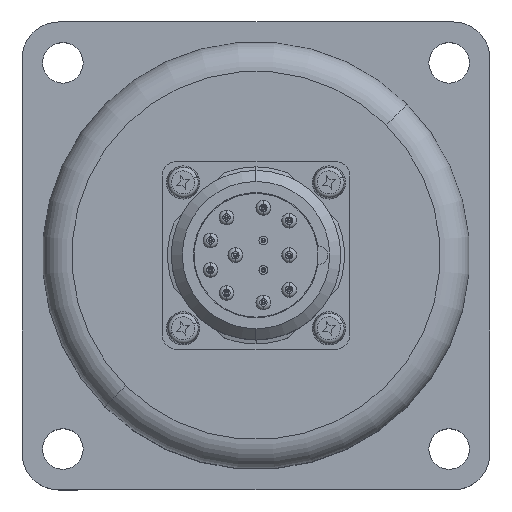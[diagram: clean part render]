
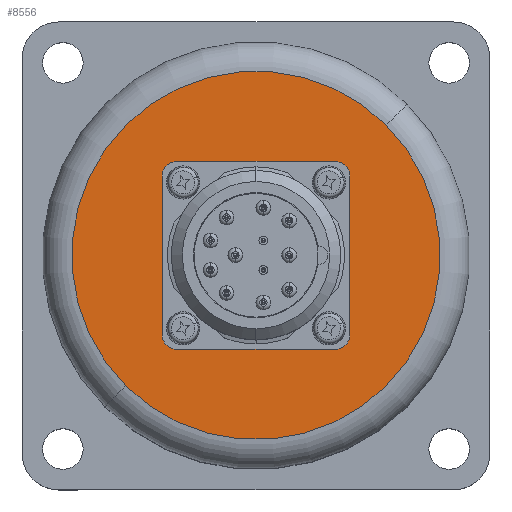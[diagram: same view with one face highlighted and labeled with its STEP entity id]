
A CAD part, top view. The second image highlights one B-rep face of the part: STEP entity #8556.
In plain terms, the highlighted planar face has unit normal (0, 0, 1).
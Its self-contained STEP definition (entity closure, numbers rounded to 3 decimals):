
#8553 = EDGE_CURVE ( 'NONE', #8667, #8666, #11340, .T. ) ;
#8556 = ADVANCED_FACE ( 'NONE', ( #11322, #11317, #11316, #11315, #11314, #11313 ), #11377, .F. ) ;
#8557 = EDGE_LOOP ( 'NONE', ( #8629, #8633 ) ) ;
#8559 = VERTEX_POINT ( 'NONE', #11405 ) ;
#8560 = VERTEX_POINT ( 'NONE', #11389 ) ;
#8561 = ORIENTED_EDGE ( 'NONE', *, *, #8562, .F. ) ;
#8562 = EDGE_CURVE ( 'NONE', #8560, #8559, #11402, .T. ) ;
#8563 = EDGE_LOOP ( 'NONE', ( #8564, #8565 ) ) ;
#8564 = ORIENTED_EDGE ( 'NONE', *, *, #8553, .T. ) ;
#8565 = ORIENTED_EDGE ( 'NONE', *, *, #8665, .T. ) ;
#8626 = EDGE_LOOP ( 'NONE', ( #8627, #8561 ) ) ;
#8627 = ORIENTED_EDGE ( 'NONE', *, *, #8628, .F. ) ;
#8628 = EDGE_CURVE ( 'NONE', #8559, #8560, #11465, .T. ) ;
#8629 = ORIENTED_EDGE ( 'NONE', *, *, #8630, .F. ) ;
#8630 = EDGE_CURVE ( 'NONE', #8631, #8632, #11440, .T. ) ;
#8631 = VERTEX_POINT ( 'NONE', #11436 ) ;
#8632 = VERTEX_POINT ( 'NONE', #11435 ) ;
#8633 = ORIENTED_EDGE ( 'NONE', *, *, #8634, .F. ) ;
#8634 = EDGE_CURVE ( 'NONE', #8632, #8631, #11433, .T. ) ;
#8635 = EDGE_LOOP ( 'NONE', ( #8636, #8640 ) ) ;
#8636 = ORIENTED_EDGE ( 'NONE', *, *, #8637, .F. ) ;
#8637 = EDGE_CURVE ( 'NONE', #8638, #8639, #11526, .T. ) ;
#8638 = VERTEX_POINT ( 'NONE', #11539 ) ;
#8639 = VERTEX_POINT ( 'NONE', #11538 ) ;
#8640 = ORIENTED_EDGE ( 'NONE', *, *, #8641, .F. ) ;
#8641 = EDGE_CURVE ( 'NONE', #8639, #8638, #11542, .T. ) ;
#8642 = EDGE_LOOP ( 'NONE', ( #8643, #8656 ) ) ;
#8643 = ORIENTED_EDGE ( 'NONE', *, *, #8653, .F. ) ;
#8653 = EDGE_CURVE ( 'NONE', #8654, #8655, #11530, .T. ) ;
#8654 = VERTEX_POINT ( 'NONE', #11532 ) ;
#8655 = VERTEX_POINT ( 'NONE', #11531 ) ;
#8656 = ORIENTED_EDGE ( 'NONE', *, *, #8657, .F. ) ;
#8657 = EDGE_CURVE ( 'NONE', #8655, #8654, #11525, .T. ) ;
#8658 = EDGE_LOOP ( 'NONE', ( #8659, #8663 ) ) ;
#8659 = ORIENTED_EDGE ( 'NONE', *, *, #8660, .F. ) ;
#8660 = EDGE_CURVE ( 'NONE', #8661, #8662, #11523, .T. ) ;
#8661 = VERTEX_POINT ( 'NONE', #11609 ) ;
#8662 = VERTEX_POINT ( 'NONE', #11581 ) ;
#8663 = ORIENTED_EDGE ( 'NONE', *, *, #8664, .F. ) ;
#8664 = EDGE_CURVE ( 'NONE', #8662, #8661, #11597, .T. ) ;
#8665 = EDGE_CURVE ( 'NONE', #8666, #8667, #11616, .T. ) ;
#8666 = VERTEX_POINT ( 'NONE', #11608 ) ;
#8667 = VERTEX_POINT ( 'NONE', #11582 ) ;
#11313 = FACE_OUTER_BOUND ( 'NONE', #8563, .T. ) ;
#11314 = FACE_BOUND ( 'NONE', #8626, .T. ) ;
#11315 = FACE_BOUND ( 'NONE', #8658, .T. ) ;
#11316 = FACE_BOUND ( 'NONE', #8642, .T. ) ;
#11317 = FACE_BOUND ( 'NONE', #8635, .T. ) ;
#11318 = DIRECTION ( 'NONE',  ( -0.707, -0.707, 0. ) ) ;
#11319 = DIRECTION ( 'NONE',  ( 0., 0., 1. ) ) ;
#11320 = CARTESIAN_POINT ( 'NONE',  ( 0., 0., 74.55 ) ) ;
#11321 = AXIS2_PLACEMENT_3D ( 'NONE', #11320, #11319, #11318 ) ;
#11322 = FACE_BOUND ( 'NONE', #8557, .T. ) ;
#11340 = CIRCLE ( 'NONE', #11321, 25. ) ;
#11377 = PLANE ( 'NONE',  #11381 ) ;
#11378 = DIRECTION ( 'NONE',  ( -0.707, -0.707, 0. ) ) ;
#11379 = DIRECTION ( 'NONE',  ( 0., 0., -1. ) ) ;
#11380 = CARTESIAN_POINT ( 'NONE',  ( -20.506, 20.506, 74.55 ) ) ;
#11381 = AXIS2_PLACEMENT_3D ( 'NONE', #11380, #11379, #11378 ) ;
#11382 = CARTESIAN_POINT ( 'NONE',  ( 0., 0., 74.55 ) ) ;
#11389 = CARTESIAN_POINT ( 'NONE',  ( -7.071, -7.071, 74.55 ) ) ;
#11391 = DIRECTION ( 'NONE',  ( 0.707, 0.707, 0. ) ) ;
#11392 = DIRECTION ( 'NONE',  ( 0., 0., 1. ) ) ;
#11402 = CIRCLE ( 'NONE', #11403, 10. ) ;
#11403 = AXIS2_PLACEMENT_3D ( 'NONE', #11382, #11392, #11391 ) ;
#11405 = CARTESIAN_POINT ( 'NONE',  ( 7.071, 7.071, 74.55 ) ) ;
#11428 = DIRECTION ( 'NONE',  ( 0.707, 0.707, 0. ) ) ;
#11429 = DIRECTION ( 'NONE',  ( 0.707, 0.707, 0. ) ) ;
#11430 = DIRECTION ( 'NONE',  ( 0., 0., 1. ) ) ;
#11431 = CARTESIAN_POINT ( 'NONE',  ( -9.9, -9.9, 74.55 ) ) ;
#11432 = AXIS2_PLACEMENT_3D ( 'NONE', #11431, #11430, #11429 ) ;
#11433 = CIRCLE ( 'NONE', #11432, 1.35 ) ;
#11434 = DIRECTION ( 'NONE',  ( 0., 0., 1. ) ) ;
#11435 = CARTESIAN_POINT ( 'NONE',  ( -10.855, -10.855, 74.55 ) ) ;
#11436 = CARTESIAN_POINT ( 'NONE',  ( -8.945, -8.945, 74.55 ) ) ;
#11437 = DIRECTION ( 'NONE',  ( 0.707, 0.707, 0. ) ) ;
#11438 = DIRECTION ( 'NONE',  ( 0., 0., 1. ) ) ;
#11439 = AXIS2_PLACEMENT_3D ( 'NONE', #11466, #11438, #11437 ) ;
#11440 = CIRCLE ( 'NONE', #11439, 1.35 ) ;
#11441 = DIRECTION ( 'NONE',  ( 0.707, 0.707, 0. ) ) ;
#11462 = DIRECTION ( 'NONE',  ( 0., 0., 1. ) ) ;
#11463 = CARTESIAN_POINT ( 'NONE',  ( 0., 0., 74.55 ) ) ;
#11464 = AXIS2_PLACEMENT_3D ( 'NONE', #11463, #11462, #11441 ) ;
#11465 = CIRCLE ( 'NONE', #11464, 10. ) ;
#11466 = CARTESIAN_POINT ( 'NONE',  ( -9.9, -9.9, 74.55 ) ) ;
#11508 = DIRECTION ( 'NONE',  ( 0.707, 0.707, 0. ) ) ;
#11509 = AXIS2_PLACEMENT_3D ( 'NONE', #11533, #11515, #11508 ) ;
#11515 = DIRECTION ( 'NONE',  ( 0., 0., 1. ) ) ;
#11521 = CARTESIAN_POINT ( 'NONE',  ( -9.9, 9.9, 74.55 ) ) ;
#11522 = AXIS2_PLACEMENT_3D ( 'NONE', #11521, #11434, #11428 ) ;
#11523 = CIRCLE ( 'NONE', #11522, 1.35 ) ;
#11525 = CIRCLE ( 'NONE', #11548, 1.35 ) ;
#11526 = CIRCLE ( 'NONE', #11509, 1.35 ) ;
#11527 = DIRECTION ( 'NONE',  ( 0.707, 0.707, 0. ) ) ;
#11528 = DIRECTION ( 'NONE',  ( 0., 0., 1. ) ) ;
#11529 = AXIS2_PLACEMENT_3D ( 'NONE', #11540, #11528, #11527 ) ;
#11530 = CIRCLE ( 'NONE', #11529, 1.35 ) ;
#11531 = CARTESIAN_POINT ( 'NONE',  ( 8.945, 8.945, 74.55 ) ) ;
#11532 = CARTESIAN_POINT ( 'NONE',  ( 10.855, 10.855, 74.55 ) ) ;
#11533 = CARTESIAN_POINT ( 'NONE',  ( 9.9, -9.9, 74.55 ) ) ;
#11535 = DIRECTION ( 'NONE',  ( 0.707, 0.707, 0. ) ) ;
#11536 = DIRECTION ( 'NONE',  ( 0., 0., 1. ) ) ;
#11538 = CARTESIAN_POINT ( 'NONE',  ( 8.945, -10.855, 74.55 ) ) ;
#11539 = CARTESIAN_POINT ( 'NONE',  ( 10.855, -8.945, 74.55 ) ) ;
#11540 = CARTESIAN_POINT ( 'NONE',  ( 9.9, 9.9, 74.55 ) ) ;
#11541 = AXIS2_PLACEMENT_3D ( 'NONE', #11543, #11536, #11535 ) ;
#11542 = CIRCLE ( 'NONE', #11541, 1.35 ) ;
#11543 = CARTESIAN_POINT ( 'NONE',  ( 9.9, -9.9, 74.55 ) ) ;
#11545 = DIRECTION ( 'NONE',  ( 0.707, 0.707, 0. ) ) ;
#11546 = DIRECTION ( 'NONE',  ( 0., 0., 1. ) ) ;
#11547 = CARTESIAN_POINT ( 'NONE',  ( 9.9, 9.9, 74.55 ) ) ;
#11548 = AXIS2_PLACEMENT_3D ( 'NONE', #11547, #11546, #11545 ) ;
#11553 = DIRECTION ( 'NONE',  ( 0.707, 0.707, 0. ) ) ;
#11578 = CARTESIAN_POINT ( 'NONE',  ( 0., 0., 74.55 ) ) ;
#11581 = CARTESIAN_POINT ( 'NONE',  ( -10.855, 8.945, 74.55 ) ) ;
#11582 = CARTESIAN_POINT ( 'NONE',  ( -17.678, -17.678, 74.55 ) ) ;
#11584 = AXIS2_PLACEMENT_3D ( 'NONE', #11578, #11614, #11615 ) ;
#11590 = AXIS2_PLACEMENT_3D ( 'NONE', #11607, #11606, #11553 ) ;
#11597 = CIRCLE ( 'NONE', #11590, 1.35 ) ;
#11606 = DIRECTION ( 'NONE',  ( 0., 0., 1. ) ) ;
#11607 = CARTESIAN_POINT ( 'NONE',  ( -9.9, 9.9, 74.55 ) ) ;
#11608 = CARTESIAN_POINT ( 'NONE',  ( 17.678, 17.678, 74.55 ) ) ;
#11609 = CARTESIAN_POINT ( 'NONE',  ( -8.945, 10.855, 74.55 ) ) ;
#11614 = DIRECTION ( 'NONE',  ( 0., 0., 1. ) ) ;
#11615 = DIRECTION ( 'NONE',  ( -0.707, -0.707, 0. ) ) ;
#11616 = CIRCLE ( 'NONE', #11584, 25. ) ;
